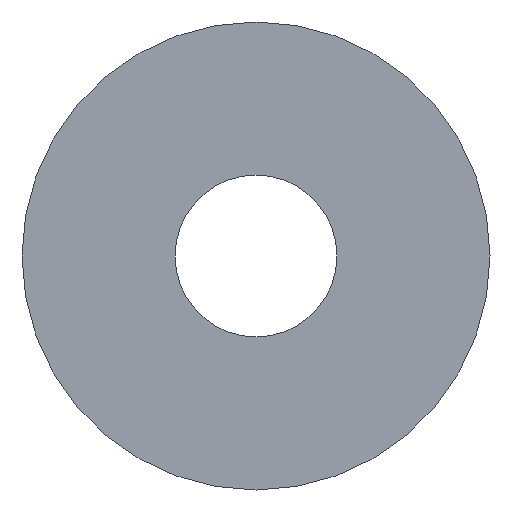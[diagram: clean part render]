
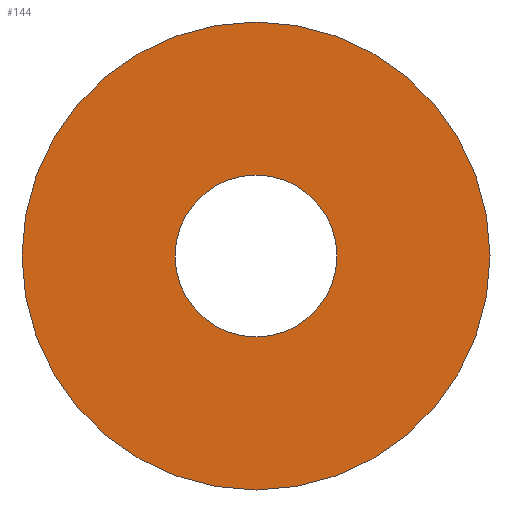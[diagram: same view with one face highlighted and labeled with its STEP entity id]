
A CAD part, left-side view. The second image highlights one B-rep face of the part: STEP entity #144.
In plain terms, the highlighted planar face has unit normal (-1, 0, 0).
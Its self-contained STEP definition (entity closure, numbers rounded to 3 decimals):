
#31 = CYLINDRICAL_SURFACE('',#32,58.26);
#32 = AXIS2_PLACEMENT_3D('',#33,#34,#35);
#33 = CARTESIAN_POINT('',(-5.235,0.,0.));
#34 = DIRECTION('',(1.,0.,0.));
#35 = DIRECTION('',(0.,1.,0.));
#56 = VERTEX_POINT('',#57);
#57 = CARTESIAN_POINT('',(-5.235,58.26,0.));
#78 = EDGE_CURVE('',#56,#56,#79,.T.);
#79 = SURFACE_CURVE('',#80,(#85,#92),.PCURVE_S1.);
#80 = CIRCLE('',#81,58.26);
#81 = AXIS2_PLACEMENT_3D('',#82,#83,#84);
#82 = CARTESIAN_POINT('',(-5.235,0.,0.));
#83 = DIRECTION('',(1.,0.,0.));
#84 = DIRECTION('',(0.,1.,0.));
#85 = PCURVE('',#31,#86);
#86 = DEFINITIONAL_REPRESENTATION('',(#87),#91);
#87 = LINE('',#88,#89);
#88 = CARTESIAN_POINT('',(0.,0.));
#89 = VECTOR('',#90,1.);
#90 = DIRECTION('',(1.,0.));
#91 = ( GEOMETRIC_REPRESENTATION_CONTEXT(2) 
PARAMETRIC_REPRESENTATION_CONTEXT() REPRESENTATION_CONTEXT('2D SPACE',''
  ) );
#92 = PCURVE('',#93,#98);
#93 = PLANE('',#94);
#94 = AXIS2_PLACEMENT_3D('',#95,#96,#97);
#95 = CARTESIAN_POINT('',(-5.235,0.,0.));
#96 = DIRECTION('',(1.,0.,0.));
#97 = DIRECTION('',(0.,1.,0.));
#98 = DEFINITIONAL_REPRESENTATION('',(#99),#103);
#99 = CIRCLE('',#100,58.26);
#100 = AXIS2_PLACEMENT_2D('',#101,#102);
#101 = CARTESIAN_POINT('',(0.,0.));
#102 = DIRECTION('',(1.,0.));
#103 = ( GEOMETRIC_REPRESENTATION_CONTEXT(2) 
PARAMETRIC_REPRESENTATION_CONTEXT() REPRESENTATION_CONTEXT('2D SPACE',''
  ) );
#133 = CYLINDRICAL_SURFACE('',#134,20.14);
#134 = AXIS2_PLACEMENT_3D('',#135,#136,#137);
#135 = CARTESIAN_POINT('',(5.235,0.,0.));
#136 = DIRECTION('',(-1.,0.,0.));
#137 = DIRECTION('',(0.,-1.,0.));
#144 = ADVANCED_FACE('',(#145,#148),#93,.F.);
#145 = FACE_BOUND('',#146,.F.);
#146 = EDGE_LOOP('',(#147));
#147 = ORIENTED_EDGE('',*,*,#78,.T.);
#148 = FACE_BOUND('',#149,.F.);
#149 = EDGE_LOOP('',(#150));
#150 = ORIENTED_EDGE('',*,*,#151,.T.);
#151 = EDGE_CURVE('',#152,#152,#154,.T.);
#152 = VERTEX_POINT('',#153);
#153 = CARTESIAN_POINT('',(-5.235,-20.14,0.));
#154 = SURFACE_CURVE('',#155,(#160,#171),.PCURVE_S1.);
#155 = CIRCLE('',#156,20.14);
#156 = AXIS2_PLACEMENT_3D('',#157,#158,#159);
#157 = CARTESIAN_POINT('',(-5.235,0.,0.));
#158 = DIRECTION('',(-1.,0.,0.));
#159 = DIRECTION('',(0.,-1.,0.));
#160 = PCURVE('',#93,#161);
#161 = DEFINITIONAL_REPRESENTATION('',(#162),#170);
#162 = ( BOUNDED_CURVE() B_SPLINE_CURVE(2,(#163,#164,#165,#166,#167,#168
,#169),.UNSPECIFIED.,.T.,.F.) B_SPLINE_CURVE_WITH_KNOTS((1,2,2,2,2,1),(
    -2.094,0.,2.094,4.189,6.283,
8.378),.UNSPECIFIED.) CURVE() GEOMETRIC_REPRESENTATION_ITEM() 
RATIONAL_B_SPLINE_CURVE((1.,0.5,1.,0.5,1.,0.5,1.)) REPRESENTATION_ITEM(
  '') );
#163 = CARTESIAN_POINT('',(-20.14,0.));
#164 = CARTESIAN_POINT('',(-20.14,34.884));
#165 = CARTESIAN_POINT('',(10.07,17.442));
#166 = CARTESIAN_POINT('',(40.28,0.));
#167 = CARTESIAN_POINT('',(10.07,-17.442));
#168 = CARTESIAN_POINT('',(-20.14,-34.884));
#169 = CARTESIAN_POINT('',(-20.14,0.));
#170 = ( GEOMETRIC_REPRESENTATION_CONTEXT(2) 
PARAMETRIC_REPRESENTATION_CONTEXT() REPRESENTATION_CONTEXT('2D SPACE',''
  ) );
#171 = PCURVE('',#133,#172);
#172 = DEFINITIONAL_REPRESENTATION('',(#173),#177);
#173 = LINE('',#174,#175);
#174 = CARTESIAN_POINT('',(0.,10.47));
#175 = VECTOR('',#176,1.);
#176 = DIRECTION('',(1.,0.));
#177 = ( GEOMETRIC_REPRESENTATION_CONTEXT(2) 
PARAMETRIC_REPRESENTATION_CONTEXT() REPRESENTATION_CONTEXT('2D SPACE',''
  ) );
